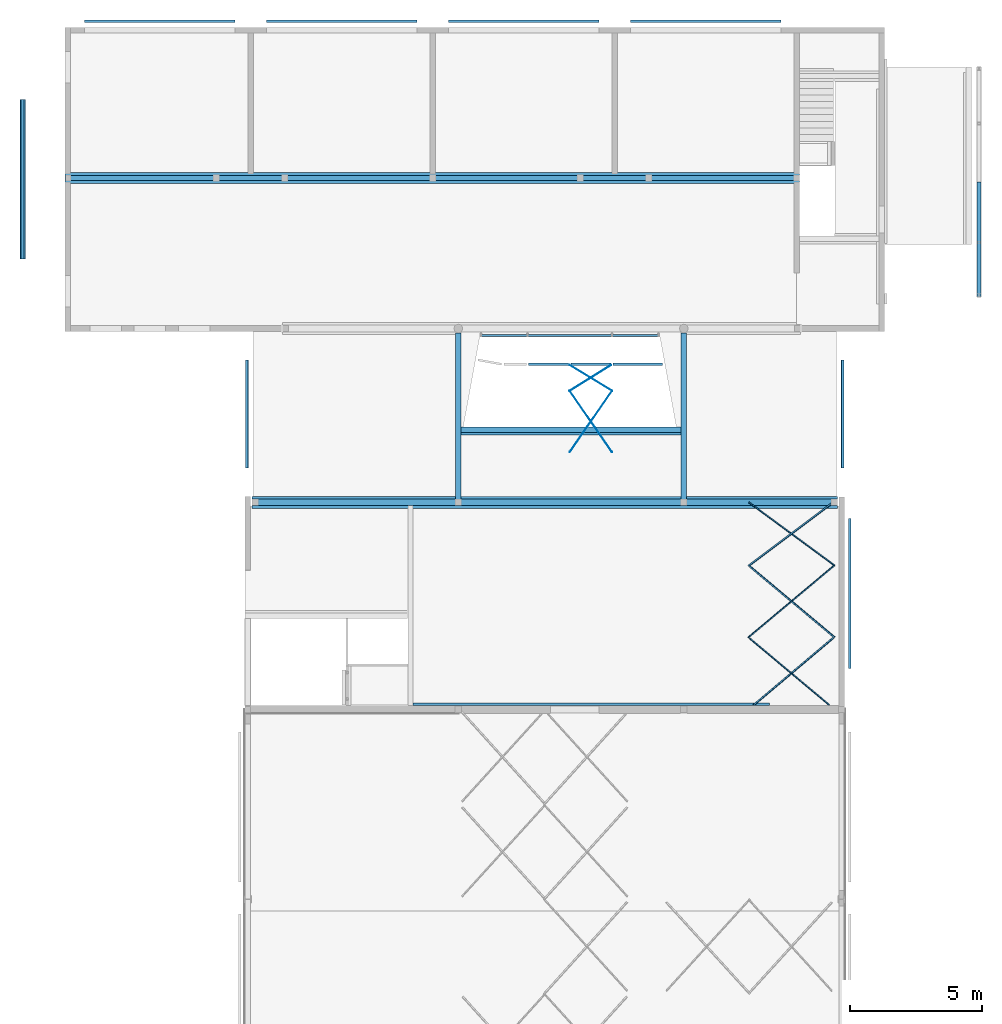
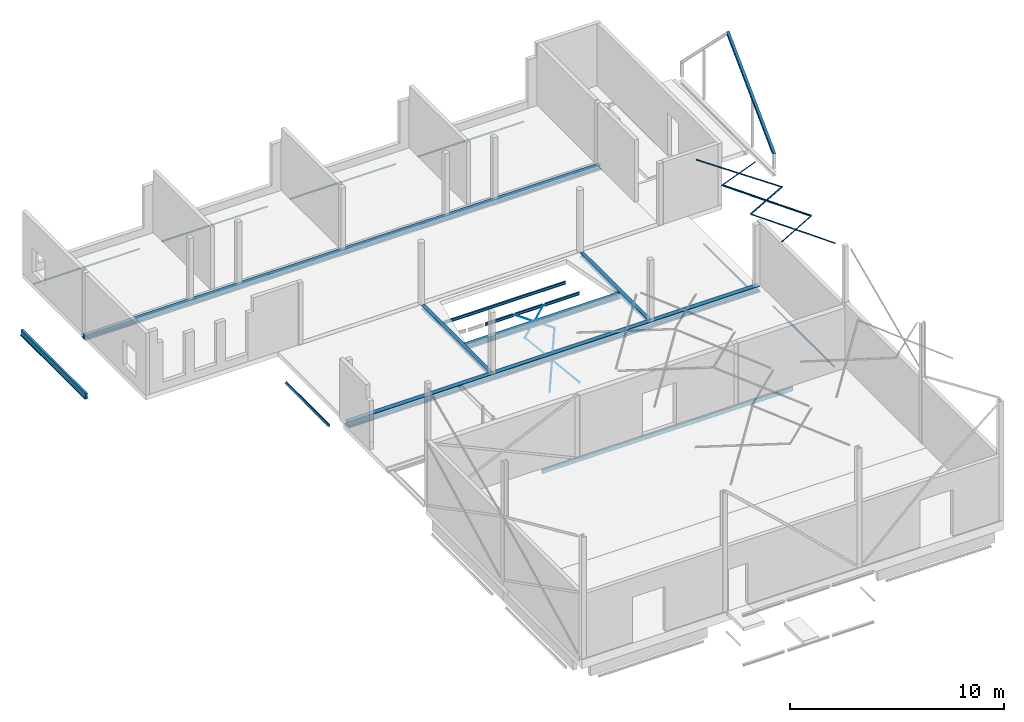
# One storey, part 7 of 14: 29 beams.
"""IFC2X3 building model written with IfcOpenShell, lengths in millimetres."""

from ifc_helpers import new_model, entity, si_unit, converted_unit, derived_unit, direction, frame, frame_2d, origin, origin_2d_with_axis, place, context, subcontext, project, spatial, polyline, rectangle, circle, i_section, outline, extrude, boolean, clip, halfspace, source, transform, mapped, material, type_object, type_shapes, element, save


model = new_model("IFC2X3")

# Units and contexts
model_context = context("Model", 3, precision=0.01, world=origin(), true_north=direction((6.123031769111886e-17, 1.0)))
body_context = subcontext(model_context, "Body", "Model", "MODEL_VIEW")
ifc_project = project(units=[si_unit("LENGTHUNIT", "METRE", prefix="MILLI"), si_unit("AREAUNIT", "SQUARE_METRE", prefix="MILLI"), si_unit("VOLUMEUNIT", "CUBIC_METRE"), converted_unit("PLANEANGLEUNIT", "DEGREE", entity("IfcPlaneAngleMeasure", 0.017453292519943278), si_unit("PLANEANGLEUNIT", "RADIAN"), dimensions=[0, 0, 0, 0, 0, 0, 0]), si_unit("MASSUNIT", "GRAM", prefix="KILO"), derived_unit("MASSDENSITYUNIT", [(si_unit("MASSUNIT", "GRAM", prefix="KILO"), 1), (si_unit("LENGTHUNIT", "METRE"), -3)]), derived_unit("IONCONCENTRATIONUNIT", [(si_unit("MASSUNIT", "GRAM", prefix="KILO"), 1), (si_unit("LENGTHUNIT", "METRE"), -3)]), derived_unit("MOMENTOFINERTIAUNIT", [(si_unit("LENGTHUNIT", "METRE"), 4)]), si_unit("TIMEUNIT", "SECOND"), si_unit("FREQUENCYUNIT", "HERTZ"), si_unit("THERMODYNAMICTEMPERATUREUNIT", "DEGREE_CELSIUS"), derived_unit("THERMALTRANSMITTANCEUNIT", [(si_unit("MASSUNIT", "GRAM", prefix="KILO"), 1), (si_unit("THERMODYNAMICTEMPERATUREUNIT", "KELVIN"), -1), (si_unit("TIMEUNIT", "SECOND"), -3)]), derived_unit("THERMALCONDUCTANCEUNIT", [(si_unit("MASSUNIT", "GRAM", prefix="KILO"), 1), (si_unit("THERMODYNAMICTEMPERATUREUNIT", "KELVIN"), -1), (si_unit("TIMEUNIT", "SECOND"), -3), (si_unit("LENGTHUNIT", "METRE"), 1)]), derived_unit("VOLUMETRICFLOWRATEUNIT", [(si_unit("LENGTHUNIT", "METRE", prefix="DECI"), 3), (si_unit("TIMEUNIT", "SECOND"), -1)]), derived_unit("MASSFLOWRATEUNIT", [(si_unit("MASSUNIT", "GRAM", prefix="KILO"), 1), (si_unit("TIMEUNIT", "SECOND"), -1)]), derived_unit("ROTATIONALFREQUENCYUNIT", [(si_unit("TIMEUNIT", "SECOND"), -1)]), si_unit("ELECTRICCURRENTUNIT", "AMPERE"), si_unit("ELECTRICVOLTAGEUNIT", "VOLT"), si_unit("POWERUNIT", "WATT"), si_unit("FORCEUNIT", "NEWTON", prefix="KILO"), si_unit("ILLUMINANCEUNIT", "LUX"), si_unit("LUMINOUSFLUXUNIT", "LUMEN"), si_unit("LUMINOUSINTENSITYUNIT", "CANDELA"), si_unit("ENERGYUNIT", "JOULE"), derived_unit("USERDEFINED", [(si_unit("MASSUNIT", "GRAM", prefix="KILO"), -1), (si_unit("LENGTHUNIT", "METRE"), -2), (si_unit("TIMEUNIT", "SECOND"), 3), (si_unit("LUMINOUSFLUXUNIT", "LUMEN"), 1)]), derived_unit("USERDEFINED", [(si_unit("MASSUNIT", "GRAM", prefix="KILO"), 1), (si_unit("TIMEUNIT", "SECOND"), -3), (si_unit("LENGTHUNIT", "METRE"), 3), (si_unit("ELECTRICCURRENTUNIT", "AMPERE"), -2)]), derived_unit("SOUNDPOWERUNIT", [(si_unit("MASSUNIT", "GRAM", prefix="KILO"), 1), (si_unit("TIMEUNIT", "SECOND"), -3), (si_unit("LENGTHUNIT", "METRE"), 2)]), derived_unit("SOUNDPRESSUREUNIT", [(si_unit("MASSUNIT", "GRAM", prefix="KILO"), 1), (si_unit("LENGTHUNIT", "METRE"), -1), (si_unit("TIMEUNIT", "SECOND"), -2)]), derived_unit("LINEARVELOCITYUNIT", [(si_unit("LENGTHUNIT", "METRE"), 1), (si_unit("TIMEUNIT", "SECOND"), -1)]), si_unit("PRESSUREUNIT", "PASCAL"), derived_unit("USERDEFINED", [(si_unit("MASSUNIT", "GRAM", prefix="KILO"), 1), (si_unit("LENGTHUNIT", "METRE"), -2), (si_unit("TIMEUNIT", "SECOND"), -2)]), derived_unit("LINEARFORCEUNIT", [(si_unit("MASSUNIT", "GRAM", prefix="KILO"), 1), (si_unit("TIMEUNIT", "SECOND"), -2)]), derived_unit("PLANARFORCEUNIT", [(si_unit("MASSUNIT", "GRAM", prefix="KILO"), 1), (si_unit("LENGTHUNIT", "METRE"), -1), (si_unit("TIMEUNIT", "SECOND"), -2)]), derived_unit("SPECIFICHEATCAPACITYUNIT", [(si_unit("THERMODYNAMICTEMPERATUREUNIT", "KELVIN"), -1), (si_unit("LENGTHUNIT", "METRE"), 2), (si_unit("TIMEUNIT", "SECOND"), -2)]), derived_unit("HEATFLUXDENSITYUNIT", [(si_unit("MASSUNIT", "GRAM", prefix="KILO"), 1), (si_unit("TIMEUNIT", "SECOND"), -3)]), derived_unit("HEATINGVALUEUNIT", [(si_unit("LENGTHUNIT", "METRE"), 2), (si_unit("TIMEUNIT", "SECOND"), -2)]), derived_unit("VAPORPERMEABILITYUNIT", [(si_unit("LENGTHUNIT", "METRE"), -1), (si_unit("TIMEUNIT", "SECOND"), 1)]), derived_unit("DYNAMICVISCOSITYUNIT", [(si_unit("MASSUNIT", "GRAM", prefix="KILO"), 1), (si_unit("TIMEUNIT", "SECOND"), -1), (si_unit("LENGTHUNIT", "METRE"), -1)]), derived_unit("THERMALEXPANSIONCOEFFICIENTUNIT", [(si_unit("THERMODYNAMICTEMPERATUREUNIT", "KELVIN"), -1)]), derived_unit("MODULUSOFELASTICITYUNIT", [(si_unit("MASSUNIT", "GRAM", prefix="KILO"), 1), (si_unit("LENGTHUNIT", "METRE"), -1), (si_unit("TIMEUNIT", "SECOND"), -2)]), derived_unit("ISOTHERMALMOISTURECAPACITYUNIT", [(si_unit("MASSUNIT", "GRAM", prefix="KILO"), -1), (si_unit("LENGTHUNIT", "METRE"), 3)]), derived_unit("MOISTUREDIFFUSIVITYUNIT", [(si_unit("TIMEUNIT", "SECOND"), -1), (si_unit("LENGTHUNIT", "METRE"), 2)]), derived_unit("MASSPERLENGTHUNIT", [(si_unit("MASSUNIT", "GRAM", prefix="KILO"), 1), (si_unit("LENGTHUNIT", "METRE"), -1)]), derived_unit("THERMALRESISTANCEUNIT", [(si_unit("MASSUNIT", "GRAM", prefix="KILO"), -1), (si_unit("TIMEUNIT", "SECOND"), 3), (si_unit("THERMODYNAMICTEMPERATUREUNIT", "KELVIN"), 1)]), derived_unit("ACCELERATIONUNIT", [(si_unit("LENGTHUNIT", "METRE"), 1), (si_unit("TIMEUNIT", "SECOND"), -2)]), derived_unit("ANGULARVELOCITYUNIT", [(si_unit("TIMEUNIT", "SECOND"), -1), (si_unit("PLANEANGLEUNIT", "RADIAN"), 1)]), derived_unit("LINEARSTIFFNESSUNIT", [(si_unit("MASSUNIT", "GRAM", prefix="KILO"), 1), (si_unit("TIMEUNIT", "SECOND"), -2)]), derived_unit("WARPINGCONSTANTUNIT", [(si_unit("LENGTHUNIT", "METRE"), 6)]), derived_unit("LINEARMOMENTUNIT", [(si_unit("MASSUNIT", "GRAM", prefix="KILO"), 1), (si_unit("LENGTHUNIT", "METRE"), 1), (si_unit("TIMEUNIT", "SECOND"), -2)]), derived_unit("TORQUEUNIT", [(si_unit("MASSUNIT", "GRAM", prefix="KILO"), 1), (si_unit("LENGTHUNIT", "METRE"), 2), (si_unit("TIMEUNIT", "SECOND"), -2)])], contexts=[model_context])

# Site, building, storey
site_placement = place(None, origin())
site = spatial("IfcSite", under=ifc_project, at=site_placement, Name="Default", CompositionType="ELEMENT")
building_placement = place(site_placement, origin())
building = spatial("IfcBuilding", under=site, at=building_placement, CompositionType="ELEMENT")
storey_placement = place(building_placement, frame((0.0, 0.0, 3730.0)))
storey = spatial("IfcBuildingStorey", under=building, at=storey_placement, Name="V1 1e verd. (bk ruwe vloer)", CompositionType="ELEMENT", Elevation=3729.9999999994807)

# Beams
ifc_material_1 = material(Name="Metal - Steel - S355 JR (standaard-geintegreerde liggers)")
beam_type_1 = type_object("IfcBeamType", Name="btl_staal - SFB:SFB HEM240+450x15", PredefinedType="BEAM", material=ifc_material_1)
shared_shape_1 = source(origin(), body_context, "Body", "SweptSolid", [
    extrude(outline(polyline([(103.0, -124.0), (135.0, -124.0), (135.0, 124.0), (103.0, 124.0), (103.0, 9.0), (-103.0, 9.0), (-103.0, 124.0), (-135.0, 124.0), (-135.0, -124.0), (-103.0, -124.0), (-103.0, -9.0), (103.0, -9.0), (103.0, -124.0)])), frame((-11099.97930145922, 0.0, 36.0), z_axis=(1.0, 0.0, 0.0), x_axis=(0.0, 0.0, -1.0)), (0.0, 0.0, 1.0), 22199.95860291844),
    extrude(rectangle(XDim=15.000000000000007, YDim=450.00000000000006, at=frame_2d((-1.687538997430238e-14, 0.0), x_axis=(1.0, 0.0))), frame((-11099.979301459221, 0.0, -106.50000000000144), z_axis=(1.0, 0.0, 0.0), x_axis=(0.0, 0.0, -1.0)), (0.0, 0.0, 1.0), 22199.95860291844),
])
type_shapes(beam_type_1, [shared_shape_1])
beam_1_placement = place(storey_placement, frame((17975.003660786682, 25344.605013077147, -161.0)))
element("IfcBeam", 1, at=beam_1_placement, inside=storey, type_object=beam_type_1, material=ifc_material_1, Name="btl_staal - SFB:SFB HEM240+450x15", ObjectType="btl_staal - SFB:SFB HEM240+450x15", context=body_context, shape_type="MappedRepresentation", body=[
    mapped(shared_shape_1, transform((0.0, 0.0, 0.0), scale=1.0)),
])
beam_type_2 = type_object("IfcBeamType", Name="btl_staal - SFB:SFB HEB200+400x15 (S355)", PredefinedType="BEAM", material=ifc_material_1)
shared_shape_2 = source(origin(), body_context, "Body", "SweptSolid", [
    extrude(outline(polyline([(85.0, -100.0), (100.0, -100.0), (100.0, 100.0), (85.0, 100.0), (85.0, 4.49999999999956), (-85.0, 4.49999999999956), (-85.0, 100.0), (-100.0, 100.0), (-100.0, -100.0), (-85.0, -100.0), (-85.0, -4.500000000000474), (85.0, -4.500000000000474), (85.0, -100.0)])), frame((-13922.989760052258, 0.0, 47.0), z_axis=(1.0, 0.0, 0.0), x_axis=(0.0, 0.0, -1.0)), (0.0, 0.0, 1.0), 27845.97952010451),
    extrude(rectangle(XDim=15.000000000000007, YDim=400.0, at=origin_2d_with_axis()), frame((-13922.989760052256, 0.0, -60.50000000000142), z_axis=(1.0, 0.0, 0.0), x_axis=(0.0, 0.0, -1.0)), (0.0, 0.0, 1.0), 27845.97952010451),
])
type_shapes(beam_type_2, [shared_shape_2])
beam_2_placement = place(storey_placement, frame((13708.989760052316, 37644.573205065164, -207.0)))
element("IfcBeam", 2, at=beam_2_placement, inside=storey, type_object=beam_type_2, material=ifc_material_1, Name="btl_staal - SFB:SFB HEB200+400x15 (S355)", ObjectType="btl_staal - SFB:SFB HEB200+400x15 (S355)", context=body_context, shape_type="MappedRepresentation", body=[
    mapped(shared_shape_2, transform((0.0, 0.0, 0.0), scale=1.0)),
])
beam_type_3 = type_object("IfcBeamType", Name="btl_staal - SFB:SFB HEB200+300x10", PredefinedType="BEAM", material=ifc_material_1)
shared_shape_3 = source(origin(), body_context, "Body", "SweptSolid", [
    extrude(outline(polyline([(85.0, -100.0), (100.0, -100.0), (100.0, 100.0), (85.0, 100.0), (85.0, 4.499999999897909), (-85.0, 4.500000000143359), (-85.0, 100.0), (-100.0, 100.0), (-100.0, -100.0), (-85.0, -100.0), (-85.0, -4.4999999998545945), (85.0, -4.500000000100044), (85.0, -100.0)])), frame((14799.994921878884, 28102.74640280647, 3570.0), z_axis=(1.0, 0.0, 0.0), x_axis=(0.0, 0.0, -1.0)), (0.0, 0.0, 1.0), 8349.991685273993),
    extrude(rectangle(XDim=9.999999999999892, YDim=299.99999999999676, at=frame_2d((0.0, 1.949729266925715e-11), x_axis=(1.0, 0.0))), frame((14799.994921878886, 28052.74640280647, 3465.0), z_axis=(1.0, 0.0, 0.0), x_axis=(0.0, 0.0, -1.0)), (0.0, 0.0, 1.0), 8349.991685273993),
])
type_shapes(beam_type_3, [shared_shape_3])
beam_3_placement = place(storey_placement, frame((0.0, 0.0, -3730.0)))
element("IfcBeam", 3, at=beam_3_placement, inside=storey, type_object=beam_type_3, material=ifc_material_1, Name="btl_staal - SFB:SFB HEB200+300x10", ObjectType="btl_staal - SFB:SFB HEB200+300x10", context=body_context, shape_type="MappedRepresentation", body=[
    mapped(shared_shape_3, transform((0.0, 0.0, 0.0), scale=1.0)),
])
beam_type_4 = type_object("IfcBeamType", Name="btl_staal - HE(a-b-m):HEB200 (S355)", PredefinedType="NOTDEFINED")
beam_4_placement = place(storey_placement, frame((14699.994921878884, 25344.605013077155, 10.0), z_axis=(0.0, 0.0015167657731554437, 0.9999988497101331), x_axis=(0.0, 0.9999988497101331, -0.0015167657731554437)))
element("IfcBeam", 4, at=beam_4_placement, inside=storey, type_object=beam_type_4, material=ifc_material_1, Name="btl_staal - HE(a-b-m):HEB200 (S355)", ObjectType="btl_staal - HE(a-b-m):HEB200 (S355)", context=body_context, shape_type="SweptSolid", body=[
    extrude(i_section(OverallWidth=200.0, OverallDepth=199.99999999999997, WebThickness=9.00000000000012, FlangeThickness=15.000000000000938, at=frame_2d((2.7000623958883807e-13, -1.0871303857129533e-12), x_axis=(0.0, 1.0))), frame((12.700000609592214, 0.0, -100.0), z_axis=(1.0, 0.0, 0.0), x_axis=(0.0, 0.0, -1.0)), (0.0, 0.0, 1.0), 6405.625588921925),
])
beam_5_placement = place(storey_placement, frame((23249.986607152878, 25344.605013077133, 10.0), z_axis=(0.0, 0.0015167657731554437, 0.9999988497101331), x_axis=(0.0, 0.9999988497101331, -0.0015167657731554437)))
element("IfcBeam", 5, at=beam_5_placement, inside=storey, type_object=beam_type_4, material=ifc_material_1, Name="btl_staal - HE(a-b-m):HEB200 (S355)", ObjectType="btl_staal - HE(a-b-m):HEB200 (S355)", context=body_context, shape_type="SweptSolid", body=[
    extrude(i_section(OverallWidth=200.0000000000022, OverallDepth=199.99999999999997, WebThickness=9.000000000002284, FlangeThickness=15.000000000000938, at=frame_2d((2.7000623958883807e-13, 2.1671553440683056e-12), x_axis=(0.0, 1.0))), frame((12.700000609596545, 0.0, -100.0), z_axis=(1.0, 0.0, 0.0), x_axis=(0.0, 0.0, -1.0)), (0.0, 0.0, 1.0), 6405.625588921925),
])
ifc_material_2 = material(Name="Metal - Steel - S275 J0H (standaard-kokers/buizen)")
beam_type_5 = type_object("IfcBeamType", Name="btl_staal - Koker:K220x80x5.0", PredefinedType="NOTDEFINED")
beam_6_placement = place(storey_placement, frame((12986.32574244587, 17690.605013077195, -262.49999999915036)))
element("IfcBeam", 6, at=beam_6_placement, inside=storey, type_object=beam_type_5, material=ifc_material_2, Name="btl_staal - Koker:K220x80x5.0", ObjectType="btl_staal - Koker:K220x80x5.0", context=body_context, shape_type="SweptSolid", body=[
    boolean("DIFFERENCE", extrude(rectangle(XDim=219.9999999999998, YDim=80.00000000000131, at=frame_2d((0.0, 3.573674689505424e-11), x_axis=(1.0, 0.0))), frame((0.0, 0.0, -110.0), z_axis=(1.0, 0.0, 0.0), x_axis=(0.0, 0.0, -1.0)), (0.0, 0.0, 1.0), 13513.660864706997), extrude(rectangle(XDim=209.99999999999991, YDim=69.99999999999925, at=frame_2d((1.0800249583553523e-12, 0.0), x_axis=(0.0, 1.0))), frame((13513.660864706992, 0.0, -110.0), z_axis=(-1.0, 0.0, 0.0), x_axis=(0.0, 1.0, 0.0)), (0.0, 0.0, 1.0), 13513.660864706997)),
])
ifc_material_3 = material(Name="Metal - Steel - S235 JRG2 (standaard)")
beam_type_6 = type_object("IfcBeamType", Name="btl_staal - IPE:IPE160", PredefinedType="NOTDEFINED")
beam_7_placement = place(storey_placement, frame((15520.532850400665, 31668.56106542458, -1257.3999999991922)))
element("IfcBeam", 7, at=beam_7_placement, inside=storey, type_object=beam_type_6, material=ifc_material_3, Name="btl_staal - IPE:IPE160", ObjectType="btl_staal - IPE:IPE160", context=body_context, shape_type="SweptSolid", body=[
    extrude(i_section(OverallWidth=82.00000000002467, OverallDepth=159.9999999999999, WebThickness=4.999999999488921, FlangeThickness=7.400000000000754, at=frame_2d((5.400124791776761e-13, 0.0), x_axis=(0.0, 1.0))), frame((0.0, 0.0, -80.0), z_axis=(1.0, 0.0, 0.0), x_axis=(0.0, 0.0, -1.0)), (0.0, 0.0, 1.0), 6810.112489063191),
])
beam_8_placement = place(storey_placement, frame((20536.62112670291, 30585.065392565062, -1257.3999999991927)))
element("IfcBeam", 8, at=beam_8_placement, inside=storey, type_object=beam_type_6, material=ifc_material_3, Name="btl_staal - IPE:IPE160", ObjectType="btl_staal - IPE:IPE160", context=body_context, shape_type="SweptSolid", body=[
    extrude(i_section(OverallWidth=82.00000000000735, OverallDepth=159.9999999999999, WebThickness=4.9999999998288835, FlangeThickness=7.400000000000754, at=frame_2d((2.7000623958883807e-13, 4.330757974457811e-12), x_axis=(0.0, 1.0))), frame((30.973932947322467, 0.0, -80.0), z_axis=(1.0, 0.0, 0.0), x_axis=(0.0, 0.0, -1.0)), (0.0, 0.0, 1.0), 1879.1707901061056),
])
beam_9_placement = place(storey_placement, frame((18927.24738886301, 30585.065392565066, -1257.3999999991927)))
element("IfcBeam", 9, at=beam_9_placement, inside=storey, type_object=beam_type_6, material=ifc_material_3, Name="btl_staal - IPE:IPE160", ObjectType="btl_staal - IPE:IPE160", context=body_context, shape_type="SweptSolid", body=[
    extrude(i_section(OverallWidth=82.00000000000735, OverallDepth=159.99999999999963, WebThickness=4.999999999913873, FlangeThickness=7.400000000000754, at=frame_2d((1.3500311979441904e-13, 4.330757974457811e-12), x_axis=(0.0, 1.0))), frame((39.39588149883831, 0.0, -80.0), z_axis=(1.0, 0.0, 0.0), x_axis=(0.0, 0.0, -1.0)), (0.0, 0.0, 1.0), 1518.9517892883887),
])
beam_10_placement = place(storey_placement, frame((17336.51249806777, 30585.065392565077, -1257.3999999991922)))
element("IfcBeam", 10, at=beam_10_placement, inside=storey, type_object=beam_type_6, material=ifc_material_3, Name="btl_staal - IPE:IPE160", ObjectType="btl_staal - IPE:IPE160", context=body_context, shape_type="SweptSolid", body=[
    extrude(i_section(OverallWidth=82.00000000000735, OverallDepth=159.99999999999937, WebThickness=4.999999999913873, FlangeThickness=7.400000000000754, at=frame_2d((8.100187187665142e-13, 4.330757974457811e-12), x_axis=(0.0, 1.0))), frame((29.1789830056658, 0.0, -80.0), z_axis=(1.0, 0.0, 0.0), x_axis=(0.0, 0.0, -1.0)), (0.0, 0.0, 1.0), 1518.9517892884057),
])
beam_type_7 = type_object("IfcBeamType", Name="btl_staal - HE(a-b-m):HEA140", PredefinedType="NOTDEFINED")
beam_11_placement = place(storey_placement, frame((34439.97719495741, 37438.97726936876, 5167.598816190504), z_axis=(0.0, -0.7056528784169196, 0.7085577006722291), x_axis=(0.0, -0.7085577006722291, -0.7056528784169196)))
element("IfcBeam", 11, at=beam_11_placement, inside=storey, type_object=beam_type_7, material=ifc_material_3, Name="btl_staal - HE(a-b-m):HEA140", ObjectType="btl_staal - HE(a-b-m):HEA140", context=body_context, shape_type="SweptSolid", body=[
    clip(clip(extrude(i_section(OverallWidth=139.9999999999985, OverallDepth=133.0000000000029, WebThickness=5.4999999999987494, FlangeThickness=8.500000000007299, at=frame_2d((-2.6787461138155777e-12, 2.1600499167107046e-12), x_axis=(0.0, 1.0))), frame((-66.14178646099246, 0.0, -66.50000000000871), z_axis=(1.0, 0.0, 0.0), x_axis=(0.0, 0.0, -1.0)), (0.0, 0.0, 1.0), 6154.188229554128), halfspace(frame((6088.04644309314, 0.0, 0.0), z_axis=(0.9234860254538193, 0.0, -0.3836320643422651), x_axis=(0.0, 1.0, 0.0)), False)), halfspace(frame((-66.1417864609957, 0.0, 0.0), z_axis=(-0.7090138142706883, 0.0, -0.7051945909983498), x_axis=(0.7051945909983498, 0.0, -0.7090138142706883)), False)),
])
beam_type_8 = type_object("IfcBeamType", Name="btl_staal - Rond:Ø16", PredefinedType="NOTDEFINED")
beam_12_placement = place(storey_placement, frame((18925.64327036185, 27250.895758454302, -3729.9909503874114), z_axis=(-0.29316851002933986, -0.42442450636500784, 0.856689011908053), x_axis=(0.48689037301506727, 0.7048785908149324, 0.5158332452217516)))
element("IfcBeam", 12, at=beam_12_placement, inside=storey, type_object=beam_type_8, material=ifc_material_3, Name="btl_staal - Rond:Ø16", ObjectType="btl_staal - Rond:Ø16", context=body_context, shape_type="SweptSolid", body=[
    extrude(circle(Radius=8.000000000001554, at=frame_2d((2.450790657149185e-13, 6.878282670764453e-13), x_axis=(1.0, 0.0))), frame((0.0, 2.685114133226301, -7.535924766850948), z_axis=(1.0, 0.0, 0.0), x_axis=(0.0, -0.9419905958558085, -0.33563926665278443)), (0.0, 0.0, 1.0), 3266.2346607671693),
])
beam_13_placement = place(storey_placement, frame((20526.595059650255, 27251.433091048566, -3729.597728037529), z_axis=(0.2931944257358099, -0.4243767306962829, 0.8567038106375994), x_axis=(-0.48696502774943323, 0.7048450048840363, 0.5158086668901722)))
element("IfcBeam", 13, at=beam_13_placement, inside=storey, type_object=beam_type_8, material=ifc_material_3, Name="btl_staal - Rond:Ø16", ObjectType="btl_staal - Rond:Ø16", context=body_context, shape_type="SweptSolid", body=[
    extrude(circle(Radius=8.00000000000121, at=frame_2d((-2.058858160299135e-13, 5.777416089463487e-13), x_axis=(1.0, 0.0))), frame((0.0, -2.685479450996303, -7.535794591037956), z_axis=(1.0, 0.0, 0.0), x_axis=(0.0, 0.9419743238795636, -0.3356849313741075)), (0.0, 0.0, 1.0), 3265.605029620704),
])
beam_14_placement = place(storey_placement, frame((18925.643270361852, 29568.689582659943, -2033.8192611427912), z_axis=(-0.3067122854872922, -0.19181926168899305, 0.9322729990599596), x_axis=(0.7904221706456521, 0.4943336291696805, 0.3617555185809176)))
element("IfcBeam", 14, at=beam_14_placement, inside=storey, type_object=beam_type_8, material=ifc_material_3, Name="btl_staal - Rond:Ø16", ObjectType="btl_staal - Rond:Ø16", context=body_context, shape_type="SweptSolid", body=[
    extrude(circle(Radius=8.000000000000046, at=frame_2d((1.0109485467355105e-12, 1.74773237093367e-12), x_axis=(1.0, 0.0))), frame((-9.306396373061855, 4.005629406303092, -6.924950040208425), z_axis=(1.0, 0.0, 0.0), x_axis=(0.0, -0.8656187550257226, -0.5007036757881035)), (0.0, 0.0, 1.0), 1984.3063963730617),
])
beam_15_placement = place(storey_placement, frame((20526.59505965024, 29568.617988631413, -2033.8716539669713), z_axis=(0.3036679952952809, -0.1846644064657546, 0.934711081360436), x_axis=(-0.7986355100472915, 0.4856605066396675, 0.35540848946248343)))
element("IfcBeam", 15, at=beam_15_placement, inside=storey, type_object=beam_type_8, material=ifc_material_3, Name="btl_staal - Rond:Ø16", ObjectType="btl_staal - Rond:Ø16", context=body_context, shape_type="SweptSolid", body=[
    extrude(circle(Radius=8.000000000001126, at=frame_2d((-5.107266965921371e-13, 8.738661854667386e-13), x_axis=(1.0, 0.0))), frame((-9.180853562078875, -4.036695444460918, -6.906887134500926), z_axis=(1.0, 0.0, 0.0), x_axis=(0.0, 0.8633608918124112, -0.5045869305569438)), (0.0, 0.0, 1.0), 2013.789675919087),
])
beam_type_9 = type_object("IfcBeamType", Name="btl_staal - THQ:THQ 300x8+100x18+200x8", PredefinedType="NOTDEFINED")
beam_16_placement = place(storey_placement, frame((-1820.0216093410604, 34868.93415320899, -975.6636992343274), z_axis=(0.0, 0.0, 1.0), x_axis=(0.0, 1.0, 0.0)))
element("IfcBeam", 16, at=beam_16_placement, inside=storey, type_object=beam_type_9, material=ifc_material_1, Name="btl_staal - THQ:THQ 300x8+100x18+200x8", ObjectType="btl_staal - THQ:THQ 300x8+100x18+200x8", context=body_context, shape_type="SweptSolid", body=[
    extrude(outline(polyline([(-58.0, -227.0), (58.0, -227.0), (58.0, 73.0), (100.0, 73.0), (100.0, 81.0), (-100.0, 81.0), (-100.0, 73.0), (-58.0, 73.0), (-58.0, -227.0)]), holes=[polyline([(-50.0, -219.0), (-50.0, 73.0), (50.0, 73.0), (50.0, -219.0), (-50.0, -219.0)])]), frame((-299.8408143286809, 0.0, -227.0), z_axis=(1.0, 0.0, 0.0), x_axis=(0.0, -1.0, 0.0)), (0.0, 0.0, 1.0), 6050.000000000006),
])
beam_type_10 = type_object("IfcBeamType", Name="btl_staal - Hoeklijn 2.0:L 60X60X8", PredefinedType="NOTDEFINED")
beam_17_placement = place(storey_placement, frame((28927.44735124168, 25344.605013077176, 7111.181396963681), z_axis=(0.23472949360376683, 0.17603940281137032, 0.9559875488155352), x_axis=(-0.7648021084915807, -0.573576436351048, 0.2934072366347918)))
element("IfcBeam", 17, at=beam_17_placement, inside=storey, type_object=beam_type_10, material=ifc_material_3, Name="btl_staal - Hoeklijn 2.0:L 60X60X8", ObjectType="btl_staal - Hoeklijn 2.0:L 60X60X8", context=body_context, shape_type="SweptSolid", body=[
    extrude(outline(polyline([(-22.66666666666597, -22.6666666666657), (37.333333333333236, -22.666666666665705), (37.33333333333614, -14.666666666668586), (-14.666666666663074, -14.66666666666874), (-14.666666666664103, 37.333333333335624), (-22.666666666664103, 37.33333333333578), (-22.66666666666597, -22.6666666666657)])), frame((0.0, -2.5995185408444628, -37.65447904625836), z_axis=(1.0, 0.0, 0.0), x_axis=(0.0, 0.21490442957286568, 0.976635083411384)), (0.0, 0.0, 1.0), 4204.604364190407),
])
beam_18_placement = place(storey_placement, frame((28975.45720567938, 22957.250462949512, 7092.762987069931), z_axis=(0.23780316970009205, -0.1749668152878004, 0.9554246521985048), x_axis=(-0.7695665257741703, 0.5662187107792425, 0.29523504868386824)))
element("IfcBeam", 18, at=beam_18_placement, inside=storey, type_object=beam_type_10, material=ifc_material_3, Name="btl_staal - Hoeklijn 2.0:L 60X60X8", ObjectType="btl_staal - Hoeklijn 2.0:L 60X60X8", context=body_context, shape_type="SweptSolid", body=[
    extrude(outline(polyline([(-22.66666666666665, -22.666666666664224), (37.33333333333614, -22.66666666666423), (37.333333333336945, -14.666666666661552), (-14.666666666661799, -14.666666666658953), (-14.666666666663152, 37.33333333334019), (-22.666666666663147, 37.333333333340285), (-22.66666666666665, -22.666666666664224)])), frame((-24.42377755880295, 13.351621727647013, -35.30370357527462), z_axis=(1.0, 0.0, 0.0), x_axis=(0.0, -0.2122726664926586, 0.9772104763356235)), (0.0, 0.0, 1.0), 4240.735433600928),
])
beam_19_placement = place(storey_placement, frame((25730.57453774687, 22947.055509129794, 8337.623646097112), z_axis=(0.21646245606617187, -0.1811372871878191, 0.9593400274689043), x_axis=(0.7357270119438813, -0.6156614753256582, -0.28225292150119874)))
element("IfcBeam", 19, at=beam_19_placement, inside=storey, type_object=beam_type_10, material=ifc_material_3, Name="btl_staal - Hoeklijn 2.0:L 60X60X8", ObjectType="btl_staal - Hoeklijn 2.0:L 60X60X8", context=body_context, shape_type="SweptSolid", body=[
    extrude(outline(polyline([(-22.66666666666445, -22.666666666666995), (37.333333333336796, -22.666666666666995), (37.33333333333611, -14.666666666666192), (-14.666666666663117, -14.666666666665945), (-14.666666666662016, 37.33333333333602), (-22.666666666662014, 37.33333333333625), (-22.66666666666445, -22.666666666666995)])), frame((50.83714119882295, -3.1770562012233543, -37.61015292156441), z_axis=(1.0, 0.0, 0.0), x_axis=(0.0, 0.22986651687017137, 0.9732221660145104)), (0.0, 0.0, 1.0), 4370.437211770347),
])
beam_20_placement = place(storey_placement, frame((28967.77339029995, 20238.1450176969, 7095.710791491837), z_axis=(0.21494438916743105, 0.18146606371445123, 0.9596191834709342), x_axis=(-0.7332492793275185, -0.6190431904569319, 0.2813023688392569)))
element("IfcBeam", 20, at=beam_20_placement, inside=storey, type_object=beam_type_10, material=ifc_material_3, Name="btl_staal - Hoeklijn 2.0:L 60X60X8", ObjectType="btl_staal - Hoeklijn 2.0:L 60X60X8", context=body_context, shape_type="SweptSolid", body=[
    extrude(outline(polyline([(-22.666666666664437, -22.666666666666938), (37.33333333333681, -22.666666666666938), (37.33333333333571, -14.666666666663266), (-14.66666666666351, -14.66666666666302), (-14.666666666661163, 37.333333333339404), (-22.66666666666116, 37.33333333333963), (-22.666666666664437, -22.666666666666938)])), frame((53.196830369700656, -3.2232558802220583, -37.60622169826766), z_axis=(1.0, 0.0, 0.0), x_axis=(0.0, 0.23106189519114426, 0.9729390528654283)), (0.0, 0.0, 1.0), 4114.974313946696),
])
beam_21_placement = place(storey_placement, frame((28982.034017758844, 17494.605013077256, 7090.239871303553), z_axis=(0.2164624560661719, -0.1811372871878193, 0.9593400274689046), x_axis=(-0.7357270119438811, 0.6156614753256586, 0.28225292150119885)))
element("IfcBeam", 21, at=beam_21_placement, inside=storey, type_object=beam_type_10, material=ifc_material_3, Name="btl_staal - Hoeklijn 2.0:L 60X60X8", ObjectType="btl_staal - Hoeklijn 2.0:L 60X60X8", context=body_context, shape_type="SweptSolid", body=[
    extrude(outline(polyline([(-22.666666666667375, -22.666666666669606), (37.33333333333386, -22.666666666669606), (37.33333333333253, -14.666666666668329), (-14.666666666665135, -14.666666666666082), (-14.666666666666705, 37.333333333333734), (-22.666666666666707, 37.333333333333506), (-22.666666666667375, -22.666666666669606)])), frame((264.830093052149, 13.986310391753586, -35.05710214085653), z_axis=(1.0, 0.0, 0.0), x_axis=(0.0, -0.22986651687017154, 0.9732221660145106)), (0.0, 0.0, 1.0), 4121.801374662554),
])
beam_22_placement = place(storey_placement, frame((25715.40608472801, 20228.14196352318, 8343.442842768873), z_axis=(0.21639499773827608, 0.18115219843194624, 0.9593524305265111), x_axis=(0.7356171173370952, 0.6158121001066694, -0.28221076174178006)))
element("IfcBeam", 22, at=beam_22_placement, inside=storey, type_object=beam_type_10, material=ifc_material_3, Name="btl_staal - Hoeklijn 2.0:L 60X60X8", ObjectType="btl_staal - Hoeklijn 2.0:L 60X60X8", context=body_context, shape_type="SweptSolid", body=[
    extrude(outline(polyline([(-22.666666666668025, -22.666666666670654), (37.333333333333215, -22.666666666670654), (37.33333333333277, -14.666666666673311), (-14.666666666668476, -14.666666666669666), (-14.666666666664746, 37.33333333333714), (-22.666666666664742, 37.33333333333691), (-22.666666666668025, -22.666666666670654)])), frame((-21.165339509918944, 13.98822909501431, -35.056336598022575), z_axis=(1.0, 0.0, 0.0), x_axis=(0.0, -0.22991978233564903, 0.9732095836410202)), (0.0, 0.0, 1.0), 4401.699407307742),
])
beam_type_11 = type_object("IfcBeamType", Name="btl_staal - Hoeklijn 2.0:L100x100x10", PredefinedType="NOTDEFINED")
beam_23_placement = place(storey_placement, frame((7425.828851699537, 43562.79316510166, -932.0)))
element("IfcBeam", 23, at=beam_23_placement, inside=storey, type_object=beam_type_11, material=ifc_material_3, Name="btl_staal - Hoeklijn 2.0:L100x100x10", ObjectType="btl_staal - Hoeklijn 2.0:L100x100x10", context=body_context, shape_type="SweptSolid", body=[
    extrude(outline(polyline([(-63.33333333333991, -36.66666666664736), (36.6666666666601, -36.66666666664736), (36.66666666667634, 63.333333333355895), (26.666666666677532, 63.33333333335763), (26.666666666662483, -26.6666666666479), (-63.333333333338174, -26.666666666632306), (-63.33333333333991, -36.66666666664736)])), frame((0.0, 8.446666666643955, -63.333333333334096), z_axis=(1.0, 0.0, 0.0), x_axis=(0.0, 0.0, -1.0)), (0.0, 0.0, 1.0), 5700.299494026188),
])
for number, where, name in (
    (24, (14326.192283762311, 43562.79316510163, -932.0), "btl_staal - Hoeklijn 2.0:L100x100x10"),
    (25, (21226.557180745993, 43562.79316510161, -932.0), "btl_staal - Hoeklijn 2.0:L100x100x10"),
    (26, (525.466152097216, 43562.79316510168, -932.0), "btl_staal - Hoeklijn 2.0:L100x100x10"),
):
    element("IfcBeam", number, at=place(storey_placement, frame(where)), inside=storey, type_object=beam_type_11, material=ifc_material_3, Name=name, ObjectType="btl_staal - Hoeklijn 2.0:L100x100x10", context=body_context, shape_type="SweptSolid", body=[
        extrude(outline(polyline([(-63.33333333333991, -36.66666666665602), (36.6666666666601, -36.66666666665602), (36.66666666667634, 63.333333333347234), (26.666666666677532, 63.33333333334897), (26.666666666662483, -26.66666666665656), (-63.333333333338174, -26.666666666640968), (-63.33333333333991, -36.66666666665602)])), frame((0.0, 8.446666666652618, -63.333333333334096), z_axis=(1.0, 0.0, 0.0), x_axis=(0.0, 0.0, -1.0)), (0.0, 0.0, 1.0), 5700.299494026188),
    ])
beam_24_placement = place(storey_placement, frame((6706.789430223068, 26642.309544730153, -932.0), z_axis=(0.0, 0.0, 1.0), x_axis=(0.0, 1.0, 0.0)))
element("IfcBeam", 27, at=beam_24_placement, inside=storey, type_object=beam_type_11, material=ifc_material_3, Name="btl_staal - Hoeklijn 2.0:L100x100x10", ObjectType="btl_staal - Hoeklijn 2.0:L100x100x10", context=body_context, shape_type="SweptSolid", body=[
    extrude(outline(polyline([(-63.33333333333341, -36.666666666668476), (36.66666666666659, -36.666666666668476), (36.66666666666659, 63.3333333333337), (26.666666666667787, 63.33333333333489), (26.666666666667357, -26.666666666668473), (-63.3333333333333, -26.6666666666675), (-63.33333333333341, -36.666666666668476)])), frame((0.0, 8.446666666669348, -63.333333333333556), z_axis=(1.0, 0.0, 0.0), x_axis=(0.0, 0.0, -1.0)), (0.0, 0.0, 1.0), 4104.200308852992),
])
beam_25_placement = place(storey_placement, frame((29511.704755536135, 24739.237900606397, -932.0), z_axis=(0.0, 0.0, 1.0), x_axis=(0.0, -1.0, 0.0)))
element("IfcBeam", 28, at=beam_25_placement, inside=storey, type_object=beam_type_11, material=ifc_material_3, Name="btl_staal - Hoeklijn 2.0:L100x100x10", ObjectType="btl_staal - Hoeklijn 2.0:L100x100x10", context=body_context, shape_type="SweptSolid", body=[
    extrude(outline(polyline([(-63.333333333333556, -36.66666666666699), (36.66666666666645, -36.66666666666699), (36.66666666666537, 63.33333333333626), (26.66666666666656, 63.33333333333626), (26.6666666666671, -26.666666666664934), (-63.333333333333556, -26.666666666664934), (-63.333333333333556, -36.66666666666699)])), frame((0.0, 8.44666666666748, -63.333333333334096), z_axis=(1.0, 0.0, 0.0), x_axis=(0.0, 0.0, -1.0)), (0.0, 0.0, 1.0), 5696.294444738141),
])
beam_26_placement = place(storey_placement, frame((29243.202962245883, 30745.544317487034, -932.0), z_axis=(0.0, 0.0, 1.0), x_axis=(0.0, -1.0, 0.0)))
element("IfcBeam", 29, at=beam_26_placement, inside=storey, type_object=beam_type_11, material=ifc_material_3, Name="btl_staal - Hoeklijn 2.0:L100x100x10", ObjectType="btl_staal - Hoeklijn 2.0:L100x100x10", context=body_context, shape_type="SweptSolid", body=[
    extrude(outline(polyline([(-63.33333333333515, -36.66666666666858), (36.66666666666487, -36.66666666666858), (36.666666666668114, 63.33333333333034), (26.666666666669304, 63.33333333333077), (26.666666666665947, -26.666666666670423), (-63.333333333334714, -26.666666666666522), (-63.33333333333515, -36.66666666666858)])), frame((0.0, 8.446666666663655, -63.333333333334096), z_axis=(1.0, 0.0, 0.0), x_axis=(0.0, 0.0, -1.0)), (0.0, 0.0, 1.0), 4104.217376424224),
])

save(model, "model.ifc")
